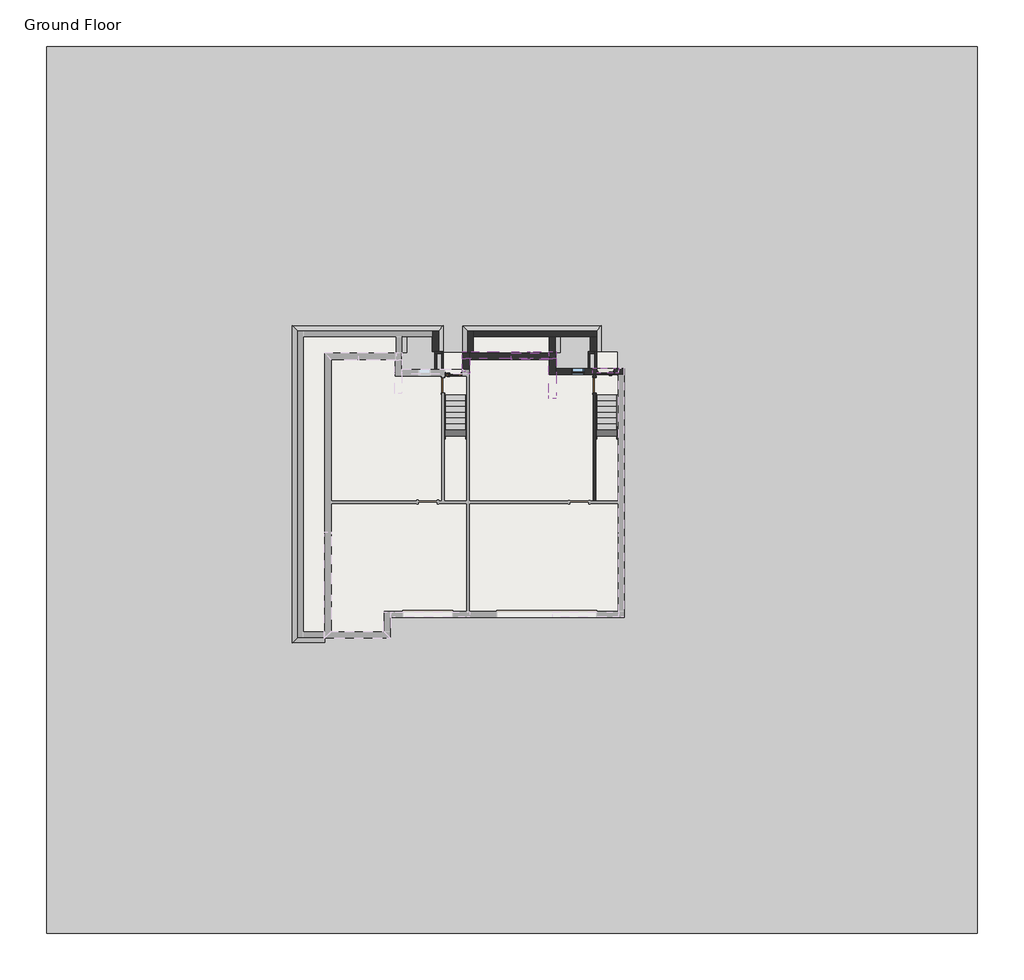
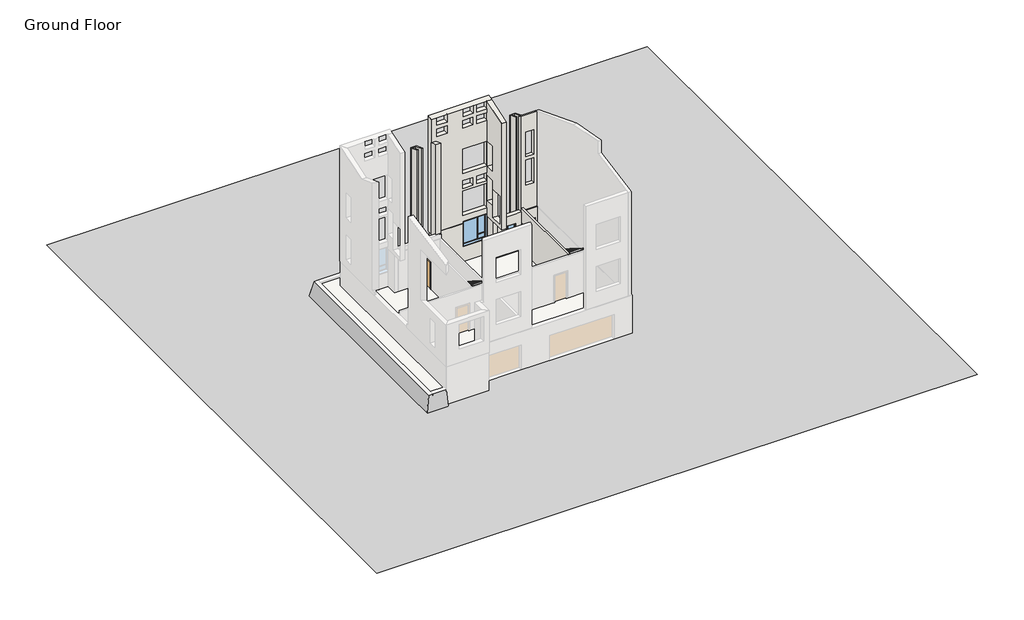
# One storey, part 2 of 2: 20 walls, 10 proxies, 4 doors, 4 members, 4 slabs, 2 stair flights, 2 windows.
"""IFC4 building model written with IfcOpenShell, lengths in millimetres."""

from ifc_helpers import new_model, si_unit, frame, origin, place, context, project, spatial, polyline, outline, extrude, faceted_brep, triangles, transform, mapped, element, save
from components import door_c549eee2, door_6cd5b398, door_f8acb57e, stair_flight_0e8ae0be, stair_flight_49ee623f, window_ca6665d5, window_aa97305f

model = new_model("IFC4")

# Units and contexts
model_context = context("Model", 3, world=origin())
ifc_project = project(units=[si_unit("LENGTHUNIT", "METRE", prefix="MILLI")], contexts=[model_context])

# Site, building, storey
site = spatial("IfcSite", under=ifc_project)
building = spatial("IfcBuilding", under=site)
storey = spatial("IfcBuildingStorey", under=building, Name="Ground Floor", Elevation=-3352.8)

# Proxies
placement = place(None, origin())
element("IfcBuildingElementProxy", 1, Name="Wall Sweeps", at=placement, inside=storey, context=model_context, shape_type="Brep", body=[
    faceted_brep([(-10227.7074129, -7419.7196644, -3352.8), (-9990.71894, -7182.7311915, -3352.8), (-9990.71894, -7182.7311915, -2133.6), (-10227.7074129, 8059.3072814, -3352.8), (-9990.7189399, 7822.3188085, -2133.6), (-9990.7189399, 7822.3188085, -3352.8)], [[[0, 1, 2]], [[3, 4, 5]], [[1, 0, 3, 5]], [[2, 1, 5, 4]], [[0, 2, 4, 3]]]),
])
element("IfcBuildingElementProxy", 2, Name="Wall Sweeps", at=placement, inside=storey, context=model_context, shape_type="Brep", body=[
    faceted_brep([(-10227.7074129, 8059.3072814, -3352.8), (-9990.7189399, 7822.3188085, -3352.8), (-9990.7189399, 7822.3188085, -2133.6), (-2853.5235601, 8059.3072814, -3352.8), (-3090.512033, 7822.3188085, -2133.6), (-3090.512033, 7822.3188085, -3352.8), (-3395.312033, 7822.3188085, -3352.8), (-9685.9189399, 7822.3188085, -3352.8)], [[[0, 1, 2]], [[3, 4, 5]], [[1, 0, 3, 5, 6, 7]], [[2, 1, 7, 6, 5, 4]], [[0, 2, 4, 3]]]),
])
element("IfcBuildingElementProxy", 3, Name="Wall Sweeps", at=placement, inside=storey, context=model_context, shape_type="Brep", body=[
    faceted_brep([(-2853.5235601, 8059.3072814, -3352.8), (-3090.512033, 7822.3188085, -3352.8), (-3090.512033, 7822.3188085, -2133.6), (-2853.5235601, 6797.6813085, -3352.8), (-3090.512033, 6797.6813085, -2133.6), (-3090.512033, 6797.6813085, -3352.8)], [[[0, 1, 2]], [[3, 4, 5]], [[1, 0, 3, 5]], [[2, 1, 5, 4]], [[0, 2, 4, 3]]]),
])
element("IfcBuildingElementProxy", 4, Name="Wall Sweeps", at=placement, inside=storey, context=model_context, shape_type="Brep", body=[
    faceted_brep([(-1930.1321781, 6743.5063085, -3352.8), (-1693.1437052, 6743.5063085, -3352.8), (-1693.1437052, 6743.5063085, -2133.6), (-1930.1321781, 8059.3072814, -3352.8), (-1693.1437052, 7822.3188085, -2133.6), (-1693.1437052, 7822.3188085, -3352.8)], [[[0, 1, 2]], [[3, 4, 5]], [[1, 0, 3, 5]], [[2, 1, 5, 4]], [[0, 2, 4, 3]]]),
])
element("IfcBuildingElementProxy", 5, Name="Wall Sweeps", at=placement, inside=storey, context=model_context, shape_type="Brep", body=[
    faceted_brep([(-1930.1321781, 8059.3072814, -3352.8), (-1693.1437052, 7822.3188085, -3352.8), (-1693.1437052, 7822.3188085, -2133.6), (4859.3565886, 8059.3072814, -3352.8), (4622.3681157, 7822.3188085, -2133.6), (4622.3681157, 7822.3188085, -3352.8), (-1388.3437052, 7822.3188085, -3352.8)], [[[0, 1, 2]], [[3, 4, 5]], [[1, 0, 3, 5, 6]], [[2, 1, 6, 5, 4]], [[0, 2, 4, 3]]]),
])
element("IfcBuildingElementProxy", 6, Name="Wall Sweeps", at=placement, inside=storey, context=model_context, shape_type="Brep", body=[
    faceted_brep([(4859.3565886, 8059.3072814, -3352.8), (4622.3681157, 7822.3188085, -3352.8), (4622.3681157, 7822.3188085, -2133.6), (4859.3565886, 6797.6813085, -3352.8), (4622.3681157, 6797.6813085, -2133.6), (4622.3681157, 6797.6813085, -3352.8), (4622.3681157, 7517.5188085, -3352.8)], [[[0, 1, 2]], [[3, 4, 5]], [[1, 0, 3, 5, 6]], [[2, 1, 6, 5, 4]], [[0, 2, 4, 3]]]),
])
element("IfcBuildingElementProxy", 7, Name="Wall Sweeps", at=placement, inside=storey, context=model_context, shape_type="SweptSolid", body=[
    extrude(outline(polyline([(-3352.8, -4619.0437052), (-2133.6, -4856.0321781), (-3352.8, -4856.0321781), (-3352.8, -4619.0437052)])), frame((0.0, 6743.5063085, 0.0), z_axis=(0.0, 1.0, 0.0), x_axis=(0.0, 0.0, 1.0)), (0.0, 0.0, 1.0), 774.0125),
])
element("IfcBuildingElementProxy", 8, Name="Wall Sweeps", at=placement, inside=storey, context=model_context, shape_type="SweptSolid", body=[
    extrude(outline(polyline([(-3352.8, 2863.2437948), (-2133.6, 2626.2553219), (-3352.8, 2626.2553219), (-3352.8, 2863.2437948)])), frame((0.0, 6743.5063085, 0.0), z_axis=(0.0, 1.0, 0.0), x_axis=(0.0, 0.0, 1.0)), (0.0, 0.0, 1.0), 774.0125),
])
element("IfcBuildingElementProxy", 9, Name="Wall Sweeps", at=placement, inside=storey, context=model_context, shape_type="Brep", body=[
    faceted_brep([(-10227.7074129, -7419.7196644, -3352.8), (-9990.71894, -7182.7311915, -2133.6), (-9990.71894, -7182.7311915, -3352.8), (-8634.8446781, -7419.7196644, -3352.8), (-8634.8446781, -7182.7311915, -3352.8), (-8634.8446781, -7182.7311915, -2133.6), (-9685.91894, -7182.7311915, -3352.8)], [[[0, 1, 2]], [[3, 4, 5]], [[1, 0, 3, 5]], [[2, 1, 5, 4, 6]], [[0, 2, 6, 4, 3]]]),
])
element("IfcBuildingElementProxy", 10, Name="Building Element Proxy", at=placement, inside=storey, context=model_context, shape_type="Tessellation", body=[
    triangles([(-22213.6324768, 21686.9692749, -3352.8), (-22213.6324768, -21594.6307251, -3352.8), (23201.5675232, -21594.6307251, -3352.8), (23201.5675232, 21686.9692749, -3352.8), (-8639.2697617, -7182.7313416, -3352.8), (-8639.2697617, 6718.1062134, -3352.8), (-4906.8318878, 6718.1062134, -3352.8), (-4906.8318878, 5912.9687302, -3352.8), (-2853.5234985, 5912.9687302, -3352.8), (-2853.5234985, 6718.1062134, -3352.8), (2626.255394, 6718.1062134, -3352.8), (2626.255394, 5970.1187302, -3352.8), (4622.3681465, 5970.1187302, -3352.8), (4622.3681465, 6763.3063614, -3352.8), (5617.580365, 6762.9313843, -3352.8), (5617.580365, 5970.1187302, -3352.8), (5971.2657532, 5970.1187302, -3352.8), (5971.2657532, 5266.1436768, -3352.8), (5971.2657532, -6186.9049164, -3352.8), (-5437.2820679, -6186.9049164, -3352.8), (-5437.2820679, -7182.7313416, -3352.8), (-7091.2863419, -7182.7313416, -3352.8)], [[2, 5, 6], [5, 2, 22], [21, 22, 2], [2, 3, 21], [1, 6, 7], [6, 1, 2], [1, 7, 10], [8, 9, 10], [8, 10, 7], [1, 10, 11], [20, 21, 19], [12, 13, 11], [18, 19, 3], [3, 19, 21], [18, 3, 4], [13, 14, 11], [11, 14, 4], [15, 17, 4], [17, 15, 16], [4, 17, 18], [15, 4, 14], [11, 4, 1]], closed=False),
])

# Doors
door_shape = door_c549eee2(model_context)
element("IfcDoor", 11, ObjectType="Door-Passage-Single-Full_Lite : 30\" x 84\"", at=placement, inside=storey, context=model_context, shape_type="MappedRepresentation", body=[
    mapped(door_shape, transform((5056.8655789, 5824.0687973, -3352.8), x_axis=(-1.0, 0.0, 0.0), y_axis=(0.0, -1.0, 0.0), z_axis=(0.0, 0.0, 1.0))),
])
door_2_shape = door_6cd5b398(model_context)
element("IfcDoor", 12, ObjectType="Door-Passage-Single-Full_Lite : 30\" x 84\"", at=placement, inside=storey, context=model_context, shape_type="MappedRepresentation", body=[
    mapped(door_2_shape, transform((-2361.9321781, 5766.9187973, -3352.8), x_axis=(1.0, 0.0, 0.0), y_axis=(0.0, 1.0, 0.0), z_axis=(0.0, 0.0, 1.0))),
])
door_3_shape = door_f8acb57e(model_context)
element("IfcDoor", 13, ObjectType="Single-Flush : 30\" x 84\"", at=placement, inside=storey, context=model_context, shape_type="MappedRepresentation", body=[
    mapped(door_3_shape, transform((-2877.8696781, 5150.9688085, -3352.8), x_axis=(0.0, 1.0, 0.0), y_axis=(-1.0, 0.0, 0.0), z_axis=(0.0, 0.0, 1.0))),
])
element("IfcDoor", 14, ObjectType="Single-Flush : 30\" x 84\"", at=placement, inside=storey, context=model_context, shape_type="MappedRepresentation", body=[
    mapped(door_3_shape, transform((4512.3530789, 5150.9687973, -3352.8), x_axis=(0.0, 1.0, 0.0), y_axis=(-1.0, 0.0, 0.0), z_axis=(0.0, 0.0, 1.0))),
])

# Members
element("IfcMember", 15, ObjectType="Stringer - 2\" Width", at=placement, inside=storey, context=model_context, shape_type="SweptSolid", body=[
    extrude(outline(polyline([(4664.2563085, -3138.2556274), (4664.2563085, -3352.8), (4433.1575568, -3352.8), (-364.9436915, -322.4202643), (-364.9436915, 38.0812147), (4664.2563085, -3138.2556274)])), frame((-1774.5571781, 0.0, 0.0), z_axis=(1.0, 0.0, 0.0), x_axis=(0.0, 1.0, 0.0)), (0.0, 0.0, 1.0), 50.8),
])
element("IfcMember", 16, ObjectType="Stringer - 2\" Width", at=placement, inside=storey, context=model_context, shape_type="SweptSolid", body=[
    extrude(outline(polyline([(4664.2563085, -3138.2556274), (4664.2563085, -3352.8), (4433.1575568, -3352.8), (-364.9436915, -322.4202643), (-364.9436915, 38.0812147), (4664.2563085, -3138.2556274)])), frame((-2815.9571781, 0.0, 0.0), z_axis=(1.0, 0.0, 0.0), x_axis=(0.0, 1.0, 0.0)), (0.0, 0.0, 1.0), 50.8),
])
element("IfcMember", 17, ObjectType="Stringer - 2\" Width", at=placement, inside=storey, context=model_context, shape_type="SweptSolid", body=[
    extrude(outline(polyline([(4664.2563085, -3138.2556274), (4664.2563085, -3352.8), (4433.1575568, -3352.8), (-364.9436915, -322.4202643), (-364.9436915, 38.0812147), (4664.2563085, -3138.2556274)])), frame((5615.6655789, 0.0, 0.0), z_axis=(1.0, 0.0, 0.0), x_axis=(0.0, 1.0, 0.0)), (0.0, 0.0, 1.0), 50.8),
])
element("IfcMember", 18, ObjectType="Stringer - 2\" Width", at=placement, inside=storey, context=model_context, shape_type="SweptSolid", body=[
    extrude(outline(polyline([(4664.2563085, -3138.2556274), (4664.2563085, -3352.8), (4433.1575568, -3352.8), (-364.9436915, -322.4202643), (-364.9436915, 38.0812147), (4664.2563085, -3138.2556274)])), frame((4574.2655789, 0.0, 0.0), z_axis=(1.0, 0.0, 0.0), x_axis=(0.0, 1.0, 0.0)), (0.0, 0.0, 1.0), 50.8),
])

# Slabs
element("IfcSlab", 19, ObjectType="Generic - 12\"", at=placement, inside=storey, context=model_context, shape_type="SweptSolid", body=[
    extrude(outline(polyline([(-5211.6321781, 6413.3063085), (-5211.6321781, 5582.7688085), (-2853.5235601, 5582.7688085), (-2853.5235601, 6744.2563085), (-1904.7321781, 6744.2563085), (-1904.7321781, 5912.9687973), (-1980.9321781, 5912.9687973), (-1980.9321781, 5582.7688085), (-1599.9321781, 5582.7688085), (-1599.9321781, 6413.3063085), (2321.4553219, 6413.3063085), (2321.4553219, 5665.3187973), (4622.3681157, 5665.3187973), (4622.3681157, 6763.3063085), (5619.4139399, 6762.9313085), (5619.4139399, 5608.1687973), (5641.0655789, 5608.1687973), (5641.0655789, -5856.7046456), (-5767.4821781, -5856.7046456), (-5767.4821781, -6852.5311915), (-8310.6571781, -6852.5311915), (-8310.6571781, 6413.3063085), (-5211.6321781, 6413.3063085)])), frame((0.0, 0.0, -3657.6), z_axis=(0.0, 0.0, 1.0), x_axis=(1.0, 0.0, 0.0)), (0.0, 0.0, 1.0), 304.8),
])
element("IfcSlab", 20, ObjectType="Grass", at=placement, inside=storey, context=model_context, shape_type="SweptSolid", body=[
    extrude(outline(polyline([(-5160.8321781, 7517.5188085), (-5160.8321781, 6743.5063085), (-8660.2446781, 6743.5063085), (-8660.2446781, -6877.9311915), (-9685.91894, -6877.9311915), (-9685.91894, 7517.5188085), (-5160.8321781, 7517.5188085)])), frame((0.0, 0.0, -2278.2), z_axis=(0.0, 0.0, 1.0), x_axis=(1.0, 0.0, 0.0)), (0.0, 0.0, 1.0), 25.4),
])
element("IfcSlab", 21, ObjectType="Grass", at=placement, inside=storey, context=model_context, shape_type="SweptSolid", body=[
    extrude(outline(polyline([(-1388.3437052, 7517.5188085), (2321.4553219, 7517.5188085), (2321.4553219, 6718.1063085), (-1388.3437052, 6718.1063085), (-1388.3437052, 7517.5188085)])), frame((0.0, 0.0, -2278.2), z_axis=(0.0, 0.0, 1.0), x_axis=(1.0, 0.0, 0.0)), (0.0, 0.0, 1.0), 25.4),
])
element("IfcSlab", 22, ObjectType="Pad 1", at=placement, inside=storey, context=model_context, shape_type="SweptSolid", body=[
    extrude(outline(polyline([(-8639.2696781, -7182.7311915), (-8639.2696781, 6718.1063085), (-4906.8321781, 6718.1063085), (-4906.8321781, 5912.9687973), (-2853.5235601, 5912.9687973), (-2853.5235601, 6718.1063085), (2626.2553219, 6718.1063085), (2626.2553219, 5970.1187973), (4622.3681157, 5970.1187973), (4622.3681157, 6763.3063085), (5617.5803262, 6762.9313085), (5617.5803262, 5970.1187973), (5971.2655789, 5970.1187973), (5971.2655789, -6186.9046456), (-5437.2821781, -6186.9046456), (-5437.2821781, -7182.7311915), (-8639.2696781, -7182.7311915)])), frame((0.0, 0.0, -3962.4), z_axis=(0.0, 0.0, 1.0), x_axis=(1.0, 0.0, 0.0)), (0.0, 0.0, 1.0), 304.8),
])

# Stair flights
stair_flight_shape = stair_flight_0e8ae0be(model_context)
element("IfcStairFlight", 23, ObjectType="2\" Tread 1\" Nosing 1/4\" Riser", at=placement, inside=storey, context=model_context, shape_type="MappedRepresentation", body=[
    mapped(stair_flight_shape, transform((0.0, 0.0, 0.0), x_axis=(1.0, 0.0, 0.0), y_axis=(0.0, 1.0, 0.0), z_axis=(0.0, 0.0, 1.0))),
])
stair_flight_2_shape = stair_flight_49ee623f(model_context)
element("IfcStairFlight", 24, ObjectType="2\" Tread 1\" Nosing 1/4\" Riser", at=placement, inside=storey, context=model_context, shape_type="MappedRepresentation", body=[
    mapped(stair_flight_2_shape, transform((0.0, 0.0, 0.0), x_axis=(1.0, 0.0, 0.0), y_axis=(0.0, 1.0, 0.0), z_axis=(0.0, 0.0, 1.0))),
])

# Walls
element("IfcWall", 25, ObjectType="Exterior - Brick - Gray", at=placement, inside=storey, context=model_context, shape_type="Brep", body=[
    faceted_brep([(4622.3681157, 5995.5187973, -3352.8), (4622.3681157, 6797.6813085, -3352.8), (4622.3681157, 6797.6813085, 6846.4925469), (4622.3681157, 5995.5187973, 7155.302725), (4533.4681157, 5995.5187973, -3352.8), (4533.4681157, 5995.5187973, 7155.302725), (4533.4681157, 6708.7813085, 6880.7165657), (4533.4681157, 6797.6813085, 6846.4925469), (4533.4681157, 6797.6813085, -3352.8), (4533.4681157, 6708.7813085, -3352.8)], [[[0, 1, 2, 3]], [[4, 5, 6, 7, 8, 9]], [[1, 0, 4, 9, 8]], [[0, 3, 5, 4]], [[2, 1, 8, 7]], [[3, 2, 7, 6, 5]]]),
])
element("IfcWall", 26, ObjectType="Exterior - Brick - Gray", at=placement, inside=storey, context=model_context, shape_type="Brep", body=[
    faceted_brep([(4533.4681157, 6797.6813085, -3352.8), (4204.5264399, 6797.6813085, -3352.8), (4204.5264399, 6797.6813085, 6846.4925469), (4533.4681157, 6797.6813085, 6846.4925469), (4533.4681157, 6708.7813085, -3352.8), (4533.4681157, 6708.7813085, 6880.7165657), (4293.4264399, 6708.7813085, 6880.7165657), (4204.5264399, 6708.7813085, 6880.7165657), (4204.5264399, 6708.7813085, -3352.8), (4293.4264399, 6708.7813085, -3352.8)], [[[0, 1, 2, 3]], [[4, 5, 6, 7, 8, 9]], [[1, 0, 4, 9, 8]], [[2, 1, 8, 7]], [[0, 3, 5, 4]], [[3, 2, 7, 6, 5]]]),
])
element("IfcWall", 27, ObjectType="Exterior - Brick - Gray", at=placement, inside=storey, context=model_context, shape_type="SweptSolid", body=[
    extrude(outline(polyline([(6708.7813085, -3352.8), (5995.5187973, -3352.8), (5995.5187973, 7155.302725), (6708.7813085, 6880.7165657), (6708.7813085, -3352.8)])), frame((4204.5264399, 0.0, 0.0), z_axis=(1.0, 0.0, 0.0), x_axis=(0.0, 1.0, 0.0)), (0.0, 0.0, 1.0), 88.9),
])
element("IfcWall", 28, ObjectType="Exterior - Brick - Gray", at=placement, inside=storey, context=model_context, shape_type="Brep", body=[
    faceted_brep([(-2853.5235601, 5912.9687973, -3352.8), (-2853.5235601, 6797.6813085, -3352.8), (-2853.5235601, 6797.6813085, 6846.4925469), (-2853.5235601, 5912.9687973, 7187.082171), (-2942.4235601, 5912.9687973, -3352.8), (-2942.4235601, 5912.9687973, 7187.082171), (-2942.4235601, 6708.7813085, 6880.7165657), (-2942.4235601, 6797.6813085, 6846.4925469), (-2942.4235601, 6797.6813085, -3352.8), (-2942.4235601, 6708.7813085, -3352.8)], [[[0, 1, 2, 3]], [[4, 5, 6, 7, 8, 9]], [[1, 0, 4, 9, 8]], [[2, 1, 8, 7]], [[0, 3, 5, 4]], [[3, 2, 7, 6, 5]]]),
])
element("IfcWall", 29, ObjectType="Exterior - Brick - Gray", at=placement, inside=storey, context=model_context, shape_type="Brep", body=[
    faceted_brep([(-2942.4235601, 6797.6813085, -3352.8), (-3266.2735601, 6797.6813085, -3352.8), (-3266.2735601, 6797.6813085, 6846.4925469), (-2942.4235601, 6797.6813085, 6846.4925469), (-2942.4235601, 6708.7813085, -3352.8), (-2942.4235601, 6708.7813085, 6880.7165657), (-3177.3735601, 6708.7813085, 6880.7165657), (-3266.2735601, 6708.7813085, 6880.7165657), (-3266.2735601, 6708.7813085, -3352.8), (-3177.3735601, 6708.7813085, -3352.8)], [[[0, 1, 2, 3]], [[4, 5, 6, 7, 8, 9]], [[1, 0, 4, 9, 8]], [[2, 1, 8, 7]], [[0, 3, 5, 4]], [[3, 2, 7, 6, 5]]]),
])
element("IfcWall", 30, ObjectType="Exterior - Brick - Gray", at=placement, inside=storey, context=model_context, shape_type="SweptSolid", body=[
    extrude(outline(polyline([(6708.7813085, -3352.8), (5938.3687973, -3352.8), (5938.3687973, 7177.3038799), (6708.7813085, 6880.7165657), (6708.7813085, -3352.8)])), frame((-3266.2735601, 0.0, 0.0), z_axis=(1.0, 0.0, 0.0), x_axis=(0.0, 1.0, 0.0)), (0.0, 0.0, 1.0), 88.9),
])
element("IfcWall", 31, ObjectType="Exterior - Brick on Mtl. Stud", at=placement, inside=storey, context=model_context, shape_type="Brep", body=[
    faceted_brep([(-1928.5446781, 6447.0188085, 8841.1995281), (-1928.5446781, 6447.0188085, 7308.0940019), (-1928.5446781, 6447.0188085, 6981.4878222), (-1928.5446781, 6447.0188085, -304.8), (-1576.1196781, 6447.0188085, -304.8), (468.8428219, 6447.0188085, -304.8), (468.8428219, 6447.0188085, -152.4), (2297.6428219, 6447.0188085, -152.4), (2297.6428219, 6447.0188085, -304.8), (2650.0678219, 6447.0188085, -304.8), (2650.0678219, 6447.0188085, 8841.1995281), (2297.6428219, 6447.0188085, 8841.1995281), (-1576.1196781, 6447.0188085, 8841.1995281), (2298.8553219, 6447.0188085, 304.8), (470.0553219, 6447.0188085, 304.8), (470.0553219, 6447.0188085, 2286.0), (2298.8553219, 6447.0188085, 2286.0), (2298.8553219, 6447.0188085, 3657.6), (470.0553219, 6447.0188085, 3657.6), (470.0553219, 6447.0188085, 5638.8), (2298.8553219, 6447.0188085, 5638.8), (2298.8553219, 6447.0188085, 3098.8), (2298.8553219, 6447.0188085, 2489.2), (1536.8553219, 6447.0188085, 2489.2), (1536.8553219, 6447.0188085, 3098.8), (2298.8553219, 6447.0188085, 7924.8), (2298.8553219, 6447.0188085, 7315.2), (1536.8553219, 6447.0188085, 7315.2), (1536.8553219, 6447.0188085, 7924.8), (2298.8553219, 6447.0188085, 8839.2), (2298.8553219, 6447.0188085, 8229.6), (1536.8553219, 6447.0188085, 8229.6), (1536.8553219, 6447.0188085, 8839.2), (1232.0553219, 6447.0188085, 3098.8), (1232.0553219, 6447.0188085, 2489.2), (470.0553219, 6447.0188085, 2489.2), (470.0553219, 6447.0188085, 3098.8), (1246.4553219, 6447.0188085, 8839.2), (1246.4553219, 6447.0188085, 8229.6), (484.4553219, 6447.0188085, 8229.6), (484.4553219, 6447.0188085, 8839.2), (-721.7446781, 6447.0188085, 7924.8), (-721.7446781, 6447.0188085, 7315.2), (-1483.7446781, 6447.0188085, 7315.2), (-1483.7446781, 6447.0188085, 7924.8), (-721.7446781, 6447.0188085, 8839.2), (-721.7446781, 6447.0188085, 8229.6), (-1483.7446781, 6447.0188085, 8229.6), (-1483.7446781, 6447.0188085, 8839.2), (1232.0553219, 6447.0188085, 7924.8), (1232.0553219, 6447.0188085, 7315.2), (470.0553219, 6447.0188085, 7315.2), (470.0553219, 6447.0188085, 7924.8), (-1928.5446781, 6799.4438085, -304.8), (-1928.5446781, 6799.4438085, 8957.0833207), (2650.0678219, 6799.4438085, 8957.0833207), (2650.0678219, 6799.4438085, -304.8), (2297.6428219, 6799.4438085, -304.8), (2297.6428219, 6799.4438085, -152.4), (468.8428219, 6799.4438085, -152.4), (468.8428219, 6799.4438085, -304.8), (2298.8553219, 6799.4438085, 304.8), (2298.8553219, 6799.4438085, 2286.0), (470.0553219, 6799.4438085, 2286.0), (470.0553219, 6799.4438085, 304.8), (2298.8553219, 6799.4438085, 3657.6), (2298.8553219, 6799.4438085, 5638.8), (470.0553219, 6799.4438085, 5638.8), (470.0553219, 6799.4438085, 3657.6), (2298.8553219, 6799.4438085, 2489.2), (2298.8553219, 6799.4438085, 3098.8), (1536.8553219, 6799.4438085, 3098.8), (1536.8553219, 6799.4438085, 2489.2), (2298.8553219, 6799.4438085, 7315.2), (2298.8553219, 6799.4438085, 7924.8), (1536.8553219, 6799.4438085, 7924.8), (1536.8553219, 6799.4438085, 7315.2), (2298.8553219, 6799.4438085, 8229.6), (2298.8553219, 6799.4438085, 8839.2), (1536.8553219, 6799.4438085, 8839.2), (1536.8553219, 6799.4438085, 8229.6), (1232.0553219, 6799.4438085, 2489.2), (1232.0553219, 6799.4438085, 3098.8), (470.0553219, 6799.4438085, 3098.8), (470.0553219, 6799.4438085, 2489.2), (1246.4553219, 6799.4438085, 8229.6), (1246.4553219, 6799.4438085, 8839.2), (484.4553219, 6799.4438085, 8839.2), (484.4553219, 6799.4438085, 8229.6), (-721.7446781, 6799.4438085, 7315.2), (-721.7446781, 6799.4438085, 7924.8), (-1483.7446781, 6799.4438085, 7924.8), (-1483.7446781, 6799.4438085, 7315.2), (-721.7446781, 6799.4438085, 8229.6), (-721.7446781, 6799.4438085, 8839.2), (-1483.7446781, 6799.4438085, 8839.2), (-1483.7446781, 6799.4438085, 8229.6), (1232.0553219, 6799.4438085, 7924.8), (470.0553219, 6799.4438085, 7924.8), (470.0553219, 6799.4438085, 7315.2), (1232.0553219, 6799.4438085, 7315.2)], [[[0, 1, 2, 3, 4, 5, 6, 7, 8, 9, 10, 11, 12], [13, 14, 15, 16], [17, 18, 19, 20], [21, 22, 23, 24], [25, 26, 27, 28], [29, 30, 31, 32], [33, 34, 35, 36], [37, 38, 39, 40], [41, 42, 43, 44], [45, 46, 47, 48], [49, 50, 51, 52]], [[53, 54, 55, 56, 57, 58, 59, 60], [61, 62, 63, 64], [65, 66, 67, 68], [69, 70, 71, 72], [73, 74, 75, 76], [77, 78, 79, 80], [81, 82, 83, 84], [85, 86, 87, 88], [89, 90, 91, 92], [93, 94, 95, 96], [97, 98, 99, 100]], [[3, 53, 60, 5, 4]], [[56, 9, 8, 57]], [[3, 2, 1, 0, 54, 53]], [[62, 61, 13, 16]], [[64, 14, 13, 61]], [[14, 64, 63, 15]], [[15, 63, 62, 16]], [[0, 12, 11, 10, 55, 54]], [[66, 65, 17, 20]], [[68, 18, 17, 65]], [[18, 68, 67, 19]], [[19, 67, 66, 20]], [[10, 9, 56, 55]], [[7, 58, 57, 8]], [[59, 6, 5, 60]], [[58, 7, 6, 59]], [[21, 70, 69, 22]], [[22, 69, 72, 23]], [[23, 72, 71, 24]], [[70, 21, 24, 71]], [[25, 74, 73, 26]], [[26, 73, 76, 27]], [[27, 76, 75, 28]], [[74, 25, 28, 75]], [[29, 78, 77, 30]], [[30, 77, 80, 31]], [[31, 80, 79, 32]], [[78, 29, 32, 79]], [[34, 33, 82, 81]], [[35, 34, 81, 84]], [[36, 35, 84, 83]], [[33, 36, 83, 82]], [[37, 86, 85, 38]], [[38, 85, 88, 39]], [[39, 88, 87, 40]], [[86, 37, 40, 87]], [[42, 41, 90, 89]], [[43, 42, 89, 92]], [[44, 43, 92, 91]], [[41, 44, 91, 90]], [[45, 94, 93, 46]], [[46, 93, 96, 47]], [[47, 96, 95, 48]], [[94, 45, 48, 95]], [[50, 49, 97, 100]], [[51, 50, 100, 99]], [[52, 51, 99, 98]], [[49, 52, 98, 97]]]),
])
element("IfcWall", 32, ObjectType="Exterior - Brick on Mtl. Stud", at=placement, inside=storey, context=model_context, shape_type="Brep", body=[
    faceted_brep([(-1928.5446781, 6447.0188085, -304.8), (-1928.5446781, 5938.3687973, -304.8), (-1928.5446781, 5938.3687973, 0.0), (-1928.5446781, 5817.7187973, 0.0), (-1928.5446781, 5817.7187973, 7223.7507625), (-1928.5446781, 5938.3687973, 7177.3038799), (-1928.5446781, 6447.0188085, 6981.4878222), (-1576.1196781, 6447.0188085, -304.8), (-1576.1196781, 6447.0188085, 6981.4878222), (-1576.1196781, 5817.7187973, 7223.7507625), (-1576.1196781, 5817.7187973, 0.0), (-1576.1196781, 5697.0687973, 0.0), (-1576.1196781, 5697.0687973, -304.8), (-1752.3321781, 5817.7187973, 0.0), (-1699.9446781, 5817.7187973, 0.0), (-1699.9446781, 5817.7187973, 7223.7507625)], [[[0, 1, 2, 3, 4, 5, 6]], [[7, 8, 9, 10, 11, 12]], [[1, 0, 7, 12]], [[4, 3, 13, 14, 10, 9, 15]], [[10, 14, 13, 11]], [[2, 1, 12, 11, 13]], [[13, 3, 2]], [[0, 6, 8, 7]], [[6, 5, 4, 15, 9, 8]]]),
])
element("IfcWall", 33, ObjectType="Exterior - Brick on Mtl. Stud", at=placement, inside=storey, context=model_context, shape_type="Brep", body=[
    faceted_brep([(2650.0678219, 6447.0188085, -304.8), (2650.0678219, 6447.0188085, 8841.1995281), (2650.0678219, 4511.8563085, 8204.8826668), (2650.0678219, 4511.8563085, 7726.4713734), (2650.0678219, 4511.8563085, 0.0), (2650.0678219, 4511.8563085, -304.8), (2650.0678219, 6394.6313085, 2895.6), (2650.0678219, 6394.6313085, 914.4), (2650.0678219, 5785.0313085, 914.4), (2650.0678219, 5785.0313085, 2895.6), (2650.0678219, 6394.6313085, 5638.8), (2650.0678219, 6394.6313085, 3657.6), (2650.0678219, 5785.0313085, 3657.6), (2650.0678219, 5785.0313085, 5638.8), (2650.0678219, 4803.9563085, 0.0), (2650.0678219, 4803.9563085, 2235.2), (2650.0678219, 5667.5563085, 2235.2), (2650.0678219, 5667.5563085, 0.0), (2297.6428219, 6447.0188085, -304.8), (2297.6428219, 4511.8563085, -304.8), (2297.6428219, 4511.8563085, 8204.8826668), (2297.6428219, 6447.0188085, 8841.1995281), (2297.6428219, 6447.0188085, -152.4), (2297.6428219, 6394.6313085, 2895.6), (2297.6428219, 5785.0313085, 2895.6), (2297.6428219, 5785.0313085, 914.4), (2297.6428219, 6394.6313085, 914.4), (2297.6428219, 6394.6313085, 5638.8), (2297.6428219, 5785.0313085, 5638.8), (2297.6428219, 5785.0313085, 3657.6), (2297.6428219, 6394.6313085, 3657.6), (2297.6428219, 4803.9563085, 0.0), (2297.6428219, 5667.5563085, 0.0), (2297.6428219, 5667.5563085, 2235.2), (2297.6428219, 4803.9563085, 2235.2)], [[[0, 1, 2, 3, 4, 5], [6, 7, 8, 9], [10, 11, 12, 13], [14, 15, 16, 17]], [[18, 19, 20, 21, 22], [23, 24, 25, 26], [27, 28, 29, 30], [31, 32, 33, 34]], [[19, 18, 0, 5]], [[7, 6, 23, 26]], [[8, 7, 26, 25]], [[9, 8, 25, 24]], [[6, 9, 24, 23]], [[21, 20, 2, 1]], [[20, 19, 5, 4, 3, 2]], [[11, 10, 27, 30]], [[12, 11, 30, 29]], [[13, 12, 29, 28]], [[10, 13, 28, 27]], [[18, 22, 21, 1, 0]], [[15, 14, 31, 34]], [[16, 15, 34, 33]], [[17, 16, 33, 32]], [[14, 17, 32, 31]]]),
])
element("IfcWall", 34, ObjectType="Exterior - Stucco", at=placement, inside=storey, context=model_context, shape_type="Brep", body=[
    faceted_brep([(4442.1014399, 5995.5187973, -304.8), (4442.1014399, 5995.5187973, 0.0), (4442.1014399, 5995.5187973, 7155.302725), (5698.2155789, 5995.5187973, 7155.302725), (5698.2155789, 5995.5187973, -304.8), (5435.5683532, 5995.5187973, 5892.8), (4825.9683532, 5995.5187973, 5892.8), (4825.9683532, 5995.5187973, 3911.6), (5435.5683532, 5995.5187973, 3911.6), (5435.5683532, 5995.5187973, 3632.2), (4825.9683532, 5995.5187973, 3632.2), (4825.9683532, 5995.5187973, 1651.0), (5435.5683532, 5995.5187973, 1651.0), (4442.1014399, 5754.2187973, -304.8), (5698.2155789, 5754.2187973, -304.8), (5698.2155789, 5754.2187973, 7248.1964902), (4442.1014399, 5754.2187973, 7248.1964902), (5435.5683532, 5754.2187973, 5892.8), (5435.5683532, 5754.2187973, 3911.6), (4825.9683532, 5754.2187973, 3911.6), (4825.9683532, 5754.2187973, 5892.8), (5435.5683532, 5754.2187973, 3632.2), (5435.5683532, 5754.2187973, 1651.0), (4825.9683532, 5754.2187973, 1651.0), (4825.9683532, 5754.2187973, 3632.2)], [[[0, 1, 2, 3, 4], [5, 6, 7, 8], [9, 10, 11, 12]], [[13, 14, 15, 16], [17, 18, 19, 20], [21, 22, 23, 24]], [[14, 13, 0, 4]], [[13, 16, 2, 1, 0]], [[15, 14, 4, 3]], [[16, 15, 3, 2]], [[18, 17, 5, 8]], [[19, 18, 8, 7]], [[20, 19, 7, 6]], [[17, 20, 6, 5]], [[22, 21, 9, 12]], [[23, 22, 12, 11]], [[24, 23, 11, 10]], [[21, 24, 10, 9]]]),
])
element("IfcWall", 35, ObjectType="Foundation - 12\" Concrete", at=placement, inside=storey, context=model_context, shape_type="Brep", body=[
    faceted_brep([(-1599.9321781, 5912.9687973, -5181.6), (-1599.9321781, 6413.3063085, -5181.6), (-1599.9321781, 6718.1063085, -5181.6), (-1599.9321781, 6718.1063085, -304.8), (-1599.9321781, 6413.3063085, -304.8), (-1599.9321781, 5912.9687973, -304.8), (-1904.7321781, 5912.9687973, -5181.6), (-1904.7321781, 5912.9687973, -304.8), (-1904.7321781, 6718.1063085, -304.8), (-1904.7321781, 6718.1063085, -5181.6)], [[[0, 1, 2, 3, 4, 5]], [[6, 7, 8, 9]], [[2, 1, 0, 6, 9]], [[5, 4, 3, 8, 7]], [[3, 2, 9, 8]], [[0, 5, 7, 6]]]),
])
element("IfcWall", 36, ObjectType="Foundation - 12\" Concrete", at=placement, inside=storey, context=model_context, shape_type="SweptSolid", body=[
    extrude(outline(polyline([(-5181.6, -1599.9321781), (-5181.6, 2321.4553219), (-304.8, 2321.4553219), (-304.8, 2297.6428219), (-2133.6, 2297.6428219), (-2133.6, 468.8428219), (-304.8, 468.8428219), (-304.8, -1599.9321781), (-5181.6, -1599.9321781)])), frame((0.0, 6413.3063085, 0.0), z_axis=(0.0, 1.0, 0.0), x_axis=(0.0, 0.0, 1.0)), (0.0, 0.0, 1.0), 304.8),
])
element("IfcWall", 37, ObjectType="Foundation - 12\" Concrete", at=placement, inside=storey, context=model_context, shape_type="Brep", body=[
    faceted_brep([(2321.4553219, 6718.1063085, -5181.6), (2321.4553219, 6413.3063085, -5181.6), (2321.4553219, 5665.3187973, -5181.6), (2321.4553219, 5665.3187973, -304.8), (2321.4553219, 6413.3063085, -304.8), (2321.4553219, 6718.1063085, -304.8), (2626.2553219, 6718.1063085, -5181.6), (2626.2553219, 6718.1063085, -304.8), (2626.2553219, 5970.1187973, -304.8), (2626.2553219, 5665.3187973, -304.8), (2626.2553219, 5665.3187973, -5181.6), (2626.2553219, 5970.1187973, -5181.6)], [[[0, 1, 2, 3, 4, 5]], [[6, 7, 8, 9, 10, 11]], [[2, 1, 0, 6, 11, 10]], [[5, 4, 3, 9, 8, 7]], [[0, 5, 7, 6]], [[3, 2, 10, 9]]]),
])
element("IfcWall", 38, ObjectType="Foundation - 12\" Concrete", at=placement, inside=storey, context=model_context, shape_type="Brep", body=[
    faceted_brep([(5971.2655789, 5665.3187973, -5181.6), (5666.4655789, 5665.3187973, -5181.6), (2626.2553219, 5665.3187973, -5181.6), (2626.2553219, 5970.1187973, -5181.6), (5971.2655789, 5970.1187973, -5181.6), (2626.2553219, 5665.3187973, -304.8), (5666.4655789, 5665.3187973, -304.8), (5971.2655789, 5665.3187973, -304.8), (5971.2655789, 5970.1187973, -304.8), (2626.2553219, 5970.1187973, -304.8), (4007.1264399, 5665.3187973, -3048.0), (3397.5264399, 5665.3187973, -3048.0), (3397.5264399, 5665.3187973, -1066.8), (4007.1264399, 5665.3187973, -1066.8), (4625.0655789, 5665.3187973, -3352.8), (4625.0655789, 5665.3187973, -1117.6), (5488.6655789, 5665.3187973, -1117.6), (5488.6655789, 5665.3187973, -3352.8), (3397.5264399, 5970.1187973, -3048.0), (4007.1264399, 5970.1187973, -3048.0), (4007.1264399, 5970.1187973, -1066.8), (3397.5264399, 5970.1187973, -1066.8), (4625.0655789, 5970.1187973, -3352.8), (5488.6655789, 5970.1187973, -3352.8), (5488.6655789, 5970.1187973, -1117.6), (4625.0655789, 5970.1187973, -1117.6)], [[[0, 1, 2, 3, 4]], [[5, 6, 7, 8, 9]], [[2, 1, 0, 7, 6, 5], [10, 11, 12, 13], [14, 15, 16, 17]], [[4, 3, 9, 8], [18, 19, 20, 21], [22, 23, 24, 25]], [[2, 5, 9, 3]], [[7, 0, 4, 8]], [[18, 11, 10, 19]], [[19, 10, 13, 20]], [[20, 13, 12, 21]], [[11, 18, 21, 12]], [[15, 14, 22, 25]], [[16, 15, 25, 24]], [[17, 16, 24, 23]], [[14, 17, 23, 22]]]),
])
element("IfcWall", 39, ObjectType="Interior - 4 7/8\" Partition (1-hr)", at=placement, inside=storey, context=model_context, shape_type="SweptSolid", body=[
    extrude(outline(polyline([(5665.3187973, 0.0), (5665.3187973, -3352.8), (5531.9687973, -3352.8), (5531.9687973, -1219.2), (4769.9687973, -1219.2), (4769.9687973, -3352.8), (-489.1593139, -3352.8), (-489.1593139, 0.0), (5665.3187973, 0.0)])), frame((4450.4405789, 0.0, 0.0), z_axis=(1.0, 0.0, 0.0), x_axis=(0.0, 1.0, 0.0)), (0.0, 0.0, 1.0), 123.825),
])
element("IfcWall", 40, ObjectType="Retaining - Stone", at=placement, inside=storey, context=model_context, shape_type="Brep", body=[
    faceted_brep([(-3395.312033, 7822.3188085, -3352.8), (-3395.312033, 7517.5188085, -3352.8), (-3395.312033, 6797.6813085, -3352.8), (-3395.312033, 6797.6813085, -2133.6), (-3395.312033, 7517.5188085, -2133.6), (-3395.312033, 7822.3188085, -2133.6), (-3090.512033, 6797.6813085, -3352.8), (-3090.512033, 7822.3188085, -3352.8), (-3090.512033, 7822.3188085, -2133.6), (-3090.512033, 6797.6813085, -2133.6)], [[[0, 1, 2, 3, 4, 5]], [[6, 7, 8, 9]], [[2, 1, 0, 7, 6]], [[3, 2, 6, 9]], [[5, 4, 3, 9, 8]], [[0, 5, 8, 7]]]),
])
element("IfcWall", 41, ObjectType="Retaining - Stone", at=placement, inside=storey, context=model_context, shape_type="Brep", body=[
    faceted_brep([(-1388.3437052, 6743.5063085, -3352.8), (-1388.3437052, 7517.5188085, -3352.8), (-1388.3437052, 7822.3188085, -3352.8), (-1388.3437052, 7822.3188085, -2133.6), (-1388.3437052, 7517.5188085, -2133.6), (-1388.3437052, 6743.5063085, -2133.6), (-1693.1437052, 7822.3188085, -3352.8), (-1693.1437052, 6743.5063085, -3352.8), (-1693.1437052, 6743.5063085, -2133.6), (-1693.1437052, 7822.3188085, -2133.6)], [[[0, 1, 2, 3, 4, 5]], [[6, 7, 8, 9]], [[2, 1, 0, 7, 6]], [[5, 4, 3, 9, 8]], [[0, 5, 8, 7]], [[3, 2, 6, 9]]]),
])
element("IfcWall", 42, ObjectType="Retaining - Stone", at=placement, inside=storey, context=model_context, shape_type="Brep", body=[
    faceted_brep([(-1388.3437052, 7517.5188085, -3352.8), (2321.4553219, 7517.5188085, -3352.8), (2626.2553219, 7517.5188085, -3352.8), (4317.5681157, 7517.5188085, -3352.8), (4622.3681157, 7517.5188085, -3352.8), (4622.3681157, 7517.5188085, -2133.6), (4317.5681157, 7517.5188085, -2133.6), (2626.2553219, 7517.5188085, -2133.6), (2321.4553219, 7517.5188085, -2133.6), (-1388.3437052, 7517.5188085, -2133.6), (4622.3681157, 7822.3188085, -3352.8), (-1388.3437052, 7822.3188085, -3352.8), (-1388.3437052, 7822.3188085, -2133.6), (4622.3681157, 7822.3188085, -2133.6)], [[[0, 1, 2, 3, 4, 5, 6, 7, 8, 9]], [[10, 11, 12, 13]], [[4, 3, 2, 1, 0, 11, 10]], [[9, 8, 7, 6, 5, 13, 12]], [[5, 4, 10, 13]], [[0, 9, 12, 11]]]),
])
element("IfcWall", 43, ObjectType="Retaining - Stone", at=placement, inside=storey, context=model_context, shape_type="SweptSolid", body=[
    extrude(outline(polyline([(4317.5681157, 6797.6813085), (4317.5681157, 7517.5188085), (4622.3681157, 7517.5188085), (4622.3681157, 6797.6813085), (4317.5681157, 6797.6813085)])), frame((0.0, 0.0, -3352.8), z_axis=(0.0, 0.0, 1.0), x_axis=(1.0, 0.0, 0.0)), (0.0, 0.0, 1.0), 1219.2),
])
element("IfcWall", 44, ObjectType="Retaining - Stone", at=placement, inside=storey, context=model_context, shape_type="SweptSolid", body=[
    extrude(outline(polyline([(2321.4553219, 6743.5063085), (2321.4553219, 7517.5188085), (2626.2553219, 7517.5188085), (2626.2553219, 6743.5063085), (2321.4553219, 6743.5063085)])), frame((0.0, 0.0, -3352.8), z_axis=(0.0, 0.0, 1.0), x_axis=(1.0, 0.0, 0.0)), (0.0, 0.0, 1.0), 1219.2),
])

# Windows
window_shape = window_ca6665d5(model_context)
element("IfcWindow", 45, ObjectType="Fixed : 24\" x 78\"", at=placement, inside=storey, context=model_context, shape_type="MappedRepresentation", body=[
    mapped(window_shape, transform((3664.2264399, 5817.7187973, -3352.8), x_axis=(-1.0, 0.0, 0.0), y_axis=(0.0, -1.0, 0.0), z_axis=(0.0, 0.0, 1.0))),
])
window_2_shape = window_aa97305f(model_context)
element("IfcWindow", 46, ObjectType="Window-Casement-Double-Sidelight : 72\" x 78\"", at=placement, inside=storey, context=model_context, shape_type="MappedRepresentation", body=[
    mapped(window_2_shape, transform((1383.2428219, 6565.7063085, -3048.0), x_axis=(1.0, 0.0, 0.0), y_axis=(0.0, 1.0, 0.0), z_axis=(0.0, 0.0, 1.0))),
])

save(model, "model.ifc")
